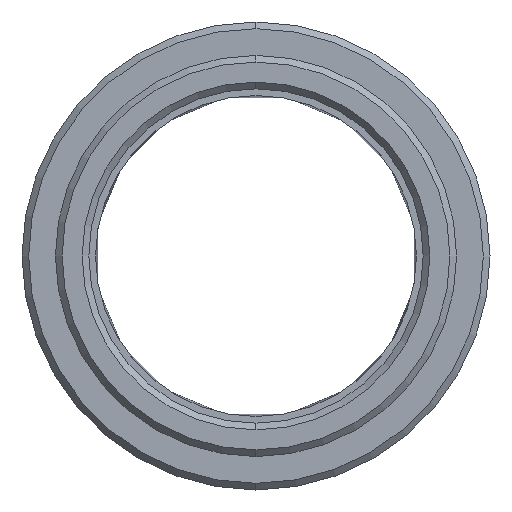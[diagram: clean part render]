
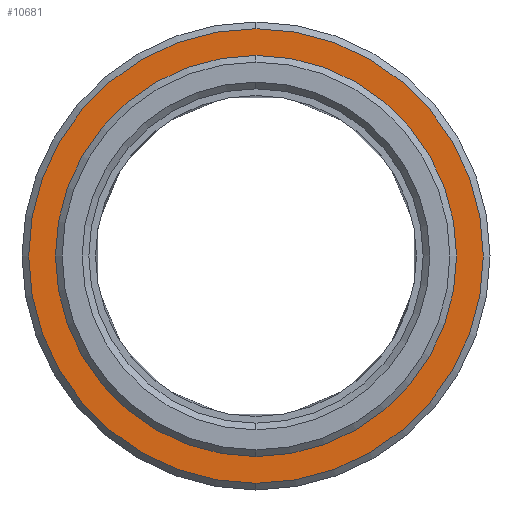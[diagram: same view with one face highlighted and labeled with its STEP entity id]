
A CAD part, left-side view. The second image highlights one B-rep face of the part: STEP entity #10681.
In plain terms, the highlighted planar face has unit normal (-1, 0, 0).
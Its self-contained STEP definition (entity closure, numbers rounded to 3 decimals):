
#4205=CARTESIAN_POINT('',(0.,0.,0.));
#4206=DIRECTION('',(1.,0.,0.));
#4207=DIRECTION('',(0.,0.,1.));
#4208=AXIS2_PLACEMENT_3D('',#4205,#4206,#4207);
#4210=CARTESIAN_POINT('',(0.,0.,0.));
#4211=DIRECTION('',(-1.,0.,0.));
#4212=DIRECTION('',(0.,0.,1.));
#4213=AXIS2_PLACEMENT_3D('',#4210,#4211,#4212);
#4215=CARTESIAN_POINT('',(0.,0.,
0.));
#4216=DIRECTION('',(1.,0.,0.));
#4217=DIRECTION('',(0.,0.,-1.));
#4218=AXIS2_PLACEMENT_3D('',#4215,#4216,#4217);
#4220=CARTESIAN_POINT('',(0.,0.,
0.));
#4221=DIRECTION('',(1.,0.,0.));
#4222=DIRECTION('',(0.,0.,1.));
#4223=AXIS2_PLACEMENT_3D('',#4220,#4221,#4222);
#8606=CARTESIAN_POINT('',(0.,0.,-17.));
#8607=CARTESIAN_POINT('',(0.,0.,17.));
#8608=VERTEX_POINT('',#8606);
#8609=VERTEX_POINT('',#8607);
#8898=CARTESIAN_POINT('',(0.,0.,15.));
#8899=CARTESIAN_POINT('',(0.,0.,-15.));
#8900=VERTEX_POINT('',#8898);
#8901=VERTEX_POINT('',#8899);
#10666=CARTESIAN_POINT('',(0.,0.,0.));
#10667=DIRECTION('',(1.,0.,0.));
#10668=DIRECTION('',(0.,0.,1.));
#10669=AXIS2_PLACEMENT_3D('',#10666,#10667,#10668);
#10670=PLANE('',#10669);
#10672=ORIENTED_EDGE('',*,*,#10671,.T.);
#10674=ORIENTED_EDGE('',*,*,#10673,.T.);
#10675=EDGE_LOOP('',(#10672,#10674));
#10676=FACE_OUTER_BOUND('',#10675,.F.);
#10677=ORIENTED_EDGE('',*,*,#10648,.F.);
#10678=ORIENTED_EDGE('',*,*,#10633,.T.);
#10679=EDGE_LOOP('',(#10677,#10678));
#10680=FACE_BOUND('',#10679,.F.);
#10681=ADVANCED_FACE('',(#10676,#10680),#10670,.F.);
#4209=CIRCLE('',#4208,15.);
#4214=CIRCLE('',#4213,15.);
#4219=CIRCLE('',#4218,17.);
#4224=CIRCLE('',#4223,17.);
#10633=EDGE_CURVE('',#8900,#8901,#4214,.T.);
#10648=EDGE_CURVE('',#8900,#8901,#4209,.T.);
#10671=EDGE_CURVE('',#8608,#8609,#4219,.T.);
#10673=EDGE_CURVE('',#8609,#8608,#4224,.T.);
